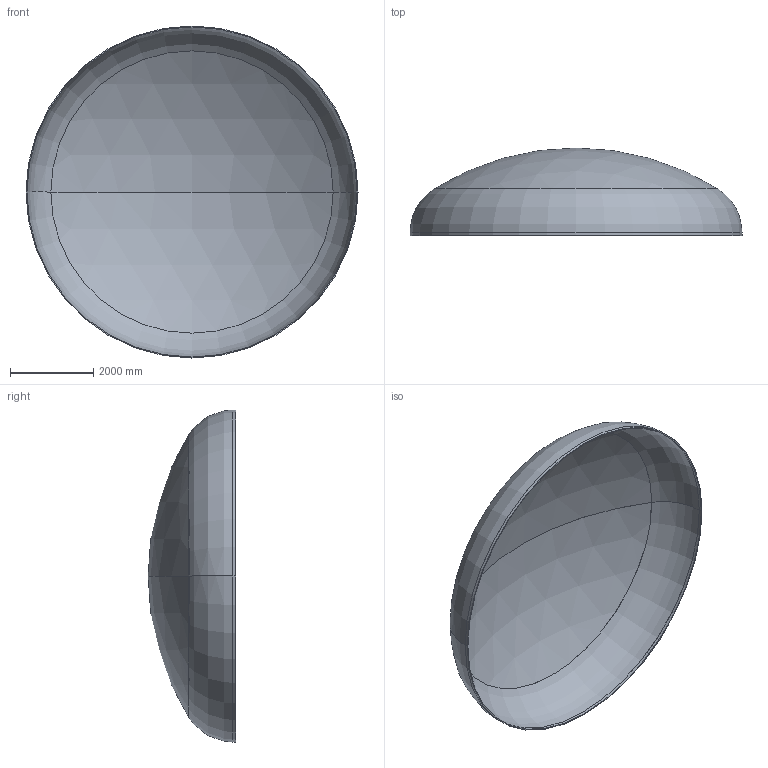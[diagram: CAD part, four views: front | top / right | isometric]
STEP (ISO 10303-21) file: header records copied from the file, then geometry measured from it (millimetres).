
FILE_DESCRIPTION (( 'STEP AP203' ), '1' );
FILE_NAME ('DIN 28013 Korbbogenform_-_Boden DIN 28013 - 8000 x 70 - I - s=22.step', '2016-07-04T10:59:26', ( '' ), ( '' ), 'SwSTEP 2.0', 'SolidWorks 2013', '' );
FILE_SCHEMA (( 'CONFIG_CONTROL_DESIGN' ));
Length unit declared in the file: millimetre
Products named in the file (1): DIN 28013 Korbbogenform_-_Boden DIN 28013 - 8000 x 70 - I - s=22
Bounding box: 8000 x 2112.8 x 8000 mm (x, y, z)
Volume: 1564246674.3 mm3; surface area: 142756598.4 mm2
Topology: 1 solids, 1 shells, 13 faces, 24 edges, 14 vertices
Faces by surface type: torus 4, cylinder 4, sphere 4, plane 1
Entity records: 407 total; most frequent: DIRECTION 72, CARTESIAN_POINT 52, ORIENTED_EDGE 48, AXIS2_PLACEMENT_3D 34, EDGE_CURVE 24, CIRCLE 20, VERTEX_POINT 14, EDGE_LOOP 14
